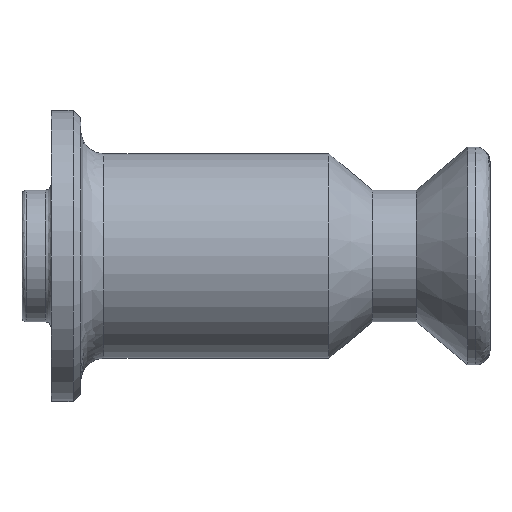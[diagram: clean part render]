
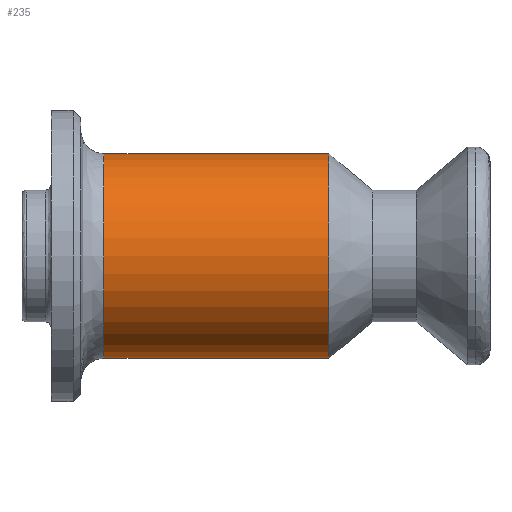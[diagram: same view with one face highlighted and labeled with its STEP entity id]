
A CAD part, left-side view. The second image highlights one B-rep face of the part: STEP entity #235.
In plain terms, the highlighted cylindrical face has radius 3.5 mm (diameter 7 mm), a partial arc.
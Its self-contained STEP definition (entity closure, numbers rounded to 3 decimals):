
#53 = CARTESIAN_POINT ( 'NONE',  ( 0., 5.51, -3.5 ) ) ;
#57 = EDGE_CURVE ( 'NONE', #580, #506, #494, .T. ) ;
#103 = CARTESIAN_POINT ( 'NONE',  ( 0., 13.2, -3.5 ) ) ;
#107 = AXIS2_PLACEMENT_3D ( 'NONE', #1193, #742, #1468 ) ;
#235 = ADVANCED_FACE ( 'NONE', ( #776 ), #795, .T. ) ;
#297 = CARTESIAN_POINT ( 'NONE',  ( 0., 13.2, 3.5 ) ) ;
#309 = DIRECTION ( 'NONE',  ( 0., 1., 0. ) ) ;
#494 = LINE ( 'NONE', #666, #498 ) ;
#498 = VECTOR ( 'NONE', #679, 1000. ) ;
#506 = VERTEX_POINT ( 'NONE', #53 ) ;
#525 = ORIENTED_EDGE ( 'NONE', *, *, #1908, .T. ) ;
#542 = EDGE_LOOP ( 'NONE', ( #736, #1469, #1129, #525 ) ) ;
#574 = VERTEX_POINT ( 'NONE', #297 ) ;
#580 = VERTEX_POINT ( 'NONE', #103 ) ;
#591 = CARTESIAN_POINT ( 'NONE',  ( 0., 5.51, 3.5 ) ) ;
#666 = CARTESIAN_POINT ( 'NONE',  ( 0., 0., -3.5 ) ) ;
#679 = DIRECTION ( 'NONE',  ( 0., -1., 0. ) ) ;
#723 = CARTESIAN_POINT ( 'NONE',  ( 0., 13.2, 0. ) ) ;
#736 = ORIENTED_EDGE ( 'NONE', *, *, #803, .F. ) ;
#742 = DIRECTION ( 'NONE',  ( 0., -1., 0. ) ) ;
#776 = FACE_OUTER_BOUND ( 'NONE', #542, .T. ) ;
#795 = CYLINDRICAL_SURFACE ( 'NONE', #107, 3.5 ) ;
#803 = EDGE_CURVE ( 'NONE', #574, #1762, #1836, .T. ) ;
#962 = CARTESIAN_POINT ( 'NONE',  ( 0., 5.51, 0. ) ) ;
#981 = AXIS2_PLACEMENT_3D ( 'NONE', #962, #309, #1634 ) ;
#1037 = CARTESIAN_POINT ( 'NONE',  ( 0., 0., 3.5 ) ) ;
#1064 = DIRECTION ( 'NONE',  ( 0., -1., 0. ) ) ;
#1129 = ORIENTED_EDGE ( 'NONE', *, *, #57, .T. ) ;
#1193 = CARTESIAN_POINT ( 'NONE',  ( 0., 0., 0. ) ) ;
#1314 = DIRECTION ( 'NONE',  ( 0., -1., 0. ) ) ;
#1371 = CIRCLE ( 'NONE', #1761, 3.5 ) ;
#1468 = DIRECTION ( 'NONE',  ( 0., 0., -1. ) ) ;
#1469 = ORIENTED_EDGE ( 'NONE', *, *, #1807, .T. ) ;
#1531 = DIRECTION ( 'NONE',  ( 0., 0., -1. ) ) ;
#1634 = DIRECTION ( 'NONE',  ( 0., 0., -1. ) ) ;
#1761 = AXIS2_PLACEMENT_3D ( 'NONE', #723, #1314, #1531 ) ;
#1762 = VERTEX_POINT ( 'NONE', #591 ) ;
#1807 = EDGE_CURVE ( 'NONE', #574, #580, #1371, .T. ) ;
#1814 = CIRCLE ( 'NONE', #981, 3.5 ) ;
#1821 = VECTOR ( 'NONE', #1064, 1000. ) ;
#1836 = LINE ( 'NONE', #1037, #1821 ) ;
#1908 = EDGE_CURVE ( 'NONE', #506, #1762, #1814, .T. ) ;
